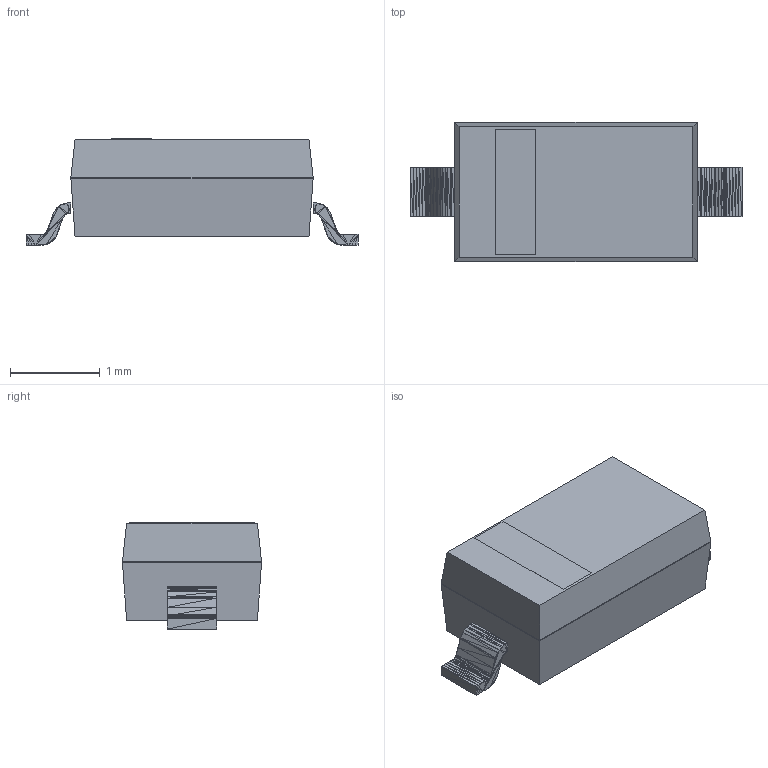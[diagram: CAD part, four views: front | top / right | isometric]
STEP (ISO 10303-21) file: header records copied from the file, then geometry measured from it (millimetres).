
FILE_DESCRIPTION(('shape.step'),'2;1');
FILE_NAME('shape.step','2026-11-04',('tscircuit'),('tscircuit'),'generator','','');
FILE_SCHEMA(('AUTOMOTIVE_DESIGN { 1 0 10303 214 1 1 1 1 }'));
Length unit declared in the file: millimetre
Products named in the file (1): shape
Bounding box: 3.7 x 1.55 x 1.19 mm (x, y, z)
Volume: 4.4 mm3; surface area: 20.4 mm2
Topology: 4 solids, 4 shells, 396 faces, 604 edges, 216 vertices
Faces by surface type: plane 396
Entity records: 7280 total; most frequent: DIRECTION 1398, ORIENTED_EDGE 1208, CARTESIAN_POINT 613, VECTOR 604, LINE 604, EDGE_CURVE 604, AXIS2_PLACEMENT_3D 397, PLANE 396
